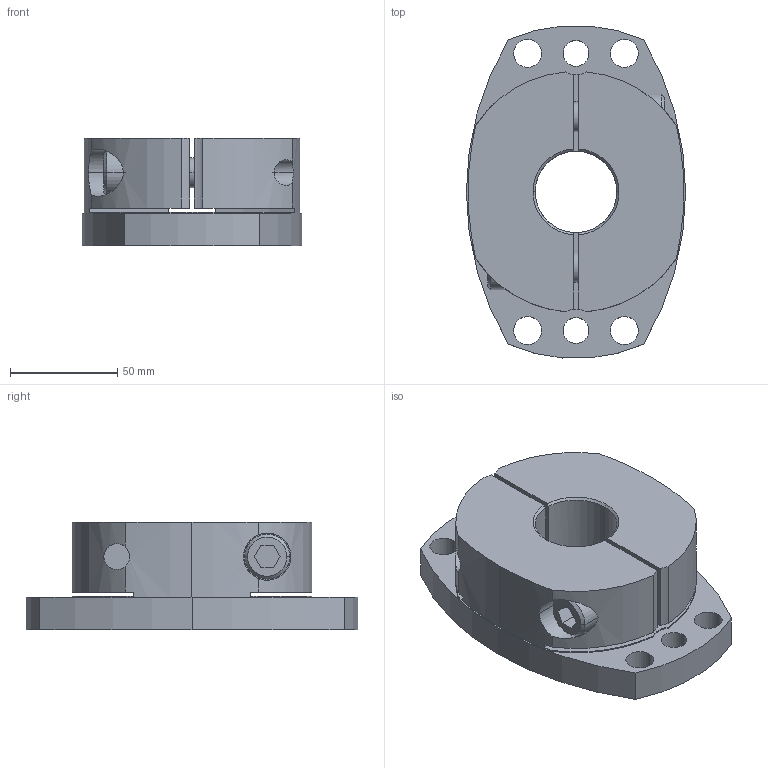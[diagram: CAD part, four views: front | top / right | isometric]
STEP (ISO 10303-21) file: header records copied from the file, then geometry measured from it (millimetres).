
FILE_DESCRIPTION((''),'2;1');
FILE_NAME('SHDB-155B-38.stp','2026-01-28T08:58:29',(''),(''),'AutoCAD STEP 2000i','AutoCAD 2000i',', , ');
FILE_SCHEMA(('CONFIG_CONTROL_DESIGN'));
Length unit declared in the file: millimetre
Products named in the file (2): SHDB-155B-35; 忣兜1
Assembly tree (1 placements, depth 2):
  SHDB-155B-35
    忣兜1
Bounding box: 102 x 154.46 x 50 mm (x, y, z)
Volume: 433572.1 mm3; surface area: 71215.6 mm2
Topology: 1 solids, 1 shells, 102 faces, 280 edges, 184 vertices
Faces by surface type: cylinder 58, plane 34, cone 10
Entity records: 3723 total; most frequent: CARTESIAN_POINT 896, DIRECTION 602, ORIENTED_EDGE 560, EDGE_CURVE 280, AXIS2_PLACEMENT_3D 238, VERTEX_POINT 184, CIRCLE 134, VECTOR 126
